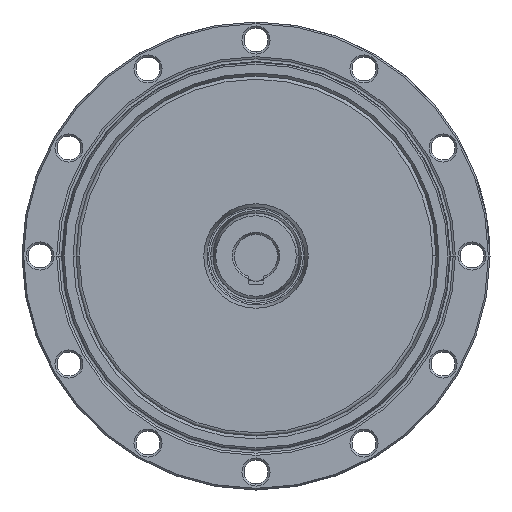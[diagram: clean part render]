
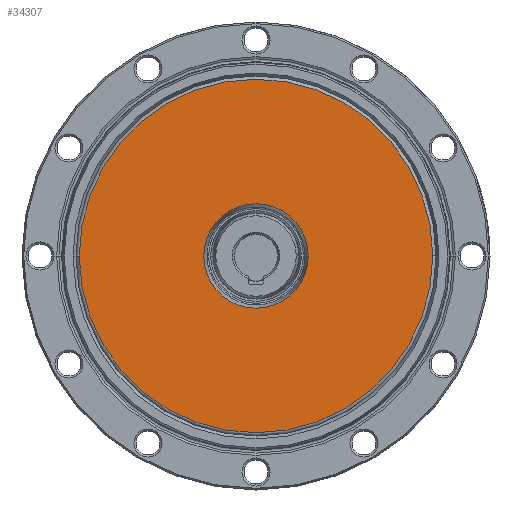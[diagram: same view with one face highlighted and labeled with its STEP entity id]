
A CAD part, front view. The second image highlights one B-rep face of the part: STEP entity #34307.
In plain terms, the highlighted planar face has unit normal (0, -1, 0).
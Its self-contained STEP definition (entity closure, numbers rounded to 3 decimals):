
#33552=CARTESIAN_POINT('',(0.,-6.,0.));
#33553=DIRECTION('',(0.,-1.,0.));
#33554=DIRECTION('',(-1.,0.,0.));
#33555=AXIS2_PLACEMENT_3D('',#33552,#33553,#33554);
#33572=CARTESIAN_POINT('',(0.,-6.,0.));
#33573=DIRECTION('',(0.,-1.,0.));
#33574=DIRECTION('',(1.,0.,0.));
#33575=AXIS2_PLACEMENT_3D('',#33572,#33573,#33574);
#33582=CARTESIAN_POINT('',(0.,-6.,0.));
#33583=DIRECTION('',(0.,1.,0.));
#33584=DIRECTION('',(1.,0.,0.));
#33585=AXIS2_PLACEMENT_3D('',#33582,#33583,#33584);
#33587=CARTESIAN_POINT('',(0.,-6.,0.));
#33588=DIRECTION('',(0.,1.,0.));
#33589=DIRECTION('',(-1.,0.,0.));
#33590=AXIS2_PLACEMENT_3D('',#33587,#33588,#33589);
#33592=CARTESIAN_POINT('',(0.,-6.,0.));
#33593=DIRECTION('',(0.,-1.,0.));
#33594=DIRECTION('',(-1.,0.,0.));
#33595=AXIS2_PLACEMENT_3D('',#33592,#33593,#33594);
#33597=CARTESIAN_POINT('',(0.,-6.,0.));
#33598=DIRECTION('',(0.,-1.,0.));
#33599=DIRECTION('',(1.,0.,0.));
#33600=AXIS2_PLACEMENT_3D('',#33597,#33598,#33599);
#34032=CARTESIAN_POINT('',(-24.55,-6.,0.));
#34033=VERTEX_POINT('',#34032);
#34034=CARTESIAN_POINT('',(24.55,-6.,0.));
#34035=CARTESIAN_POINT('',(-24.55,-6.,-0.103));
#34036=VERTEX_POINT('',#34034);
#34037=VERTEX_POINT('',#34035);
#34038=CARTESIAN_POINT('',(24.55,-6.,0.103));
#34039=VERTEX_POINT('',#34038);
#34040=CARTESIAN_POINT('',(-7.252,-6.,0.));
#34041=CARTESIAN_POINT('',(7.252,-6.,0.));
#34042=VERTEX_POINT('',#34040);
#34043=VERTEX_POINT('',#34041);
#34290=CARTESIAN_POINT('',(0.,-6.,0.));
#34291=DIRECTION('',(0.,-1.,0.));
#34292=DIRECTION('',(-1.,0.,0.));
#34293=AXIS2_PLACEMENT_3D('',#34290,#34291,#34292);
#34294=PLANE('',#34293);
#34295=ORIENTED_EDGE('',*,*,#34267,.T.);
#34296=ORIENTED_EDGE('',*,*,#34265,.F.);
#34297=ORIENTED_EDGE('',*,*,#34284,.T.);
#34298=ORIENTED_EDGE('',*,*,#34282,.F.);
#34299=EDGE_LOOP('',(#34295,#34296,#34297,#34298));
#34300=FACE_OUTER_BOUND('',#34299,.F.);
#34302=ORIENTED_EDGE('',*,*,#34301,.T.);
#34304=ORIENTED_EDGE('',*,*,#34303,.T.);
#34305=EDGE_LOOP('',(#34302,#34304));
#34306=FACE_BOUND('',#34305,.F.);
#33556=CIRCLE('',#33555,24.55);
#33576=CIRCLE('',#33575,24.55);
#33586=CIRCLE('',#33585,24.55);
#33591=CIRCLE('',#33590,24.55);
#33596=CIRCLE('',#33595,7.252);
#33601=CIRCLE('',#33600,7.252);
#34265=EDGE_CURVE('',#34033,#34037,#33556,.T.);
#34267=EDGE_CURVE('',#34036,#34037,#33586,.T.);
#34282=EDGE_CURVE('',#34036,#34039,#33576,.T.);
#34284=EDGE_CURVE('',#34033,#34039,#33591,.T.);
#34301=EDGE_CURVE('',#34042,#34043,#33596,.T.);
#34303=EDGE_CURVE('',#34043,#34042,#33601,.T.);
#34307=ADVANCED_FACE('',(#34300,#34306),#34294,.T.);
